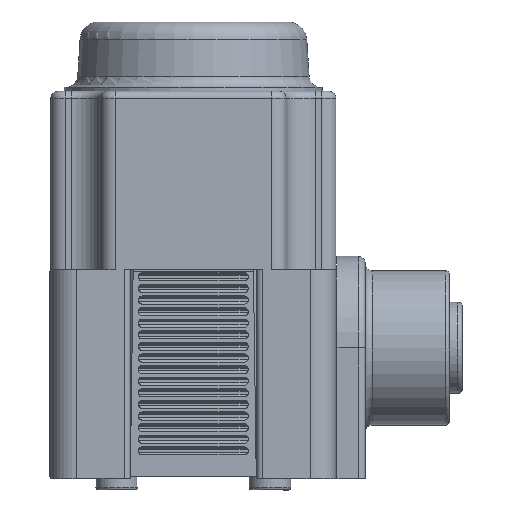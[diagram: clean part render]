
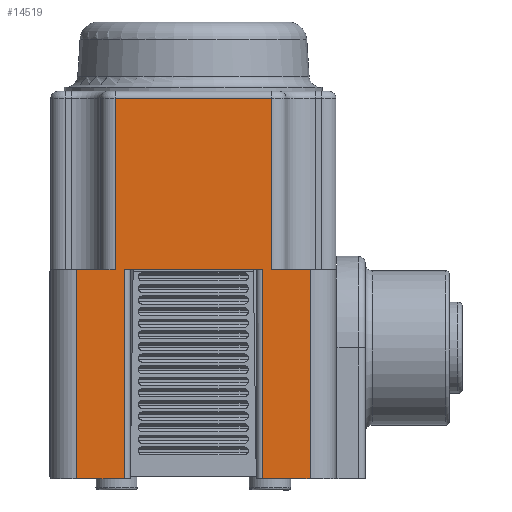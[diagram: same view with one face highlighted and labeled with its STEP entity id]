
A CAD part, left-side view. The second image highlights one B-rep face of the part: STEP entity #14519.
In plain terms, the highlighted planar face has unit normal (-1, 0, 0).
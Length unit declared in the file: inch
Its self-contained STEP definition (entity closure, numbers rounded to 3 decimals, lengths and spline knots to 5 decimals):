
#856=PLANE('',#16071);
#1621=FACE_OUTER_BOUND('',#2504,.T.);
#2504=EDGE_LOOP('',(#12526,#12527,#12528,#12529,#12530,#12531,#12532,#12533,
#12534,#12535,#12536,#12537));
#4147=LINE('',#26096,#5120);
#4160=LINE('',#26166,#5133);
#4276=LINE('',#27741,#5249);
#4293=LINE('',#27800,#5266);
#4294=LINE('',#27804,#5267);
#4297=LINE('',#27823,#5270);
#4310=LINE('',#27899,#5283);
#4311=LINE('',#27903,#5284);
#4312=LINE('',#27904,#5285);
#4313=LINE('',#27906,#5286);
#4314=LINE('',#27908,#5287);
#4315=LINE('',#27909,#5288);
#5120=VECTOR('',#19493,0.3937);
#5133=VECTOR('',#19576,0.3937);
#5249=VECTOR('',#19886,0.3937);
#5266=VECTOR('',#19957,0.3937);
#5267=VECTOR('',#19962,0.3937);
#5270=VECTOR('',#19983,0.3937);
#5283=VECTOR('',#20084,0.3937);
#5284=VECTOR('',#20089,0.3937);
#5285=VECTOR('',#20090,0.3937);
#5286=VECTOR('',#20091,0.3937);
#5287=VECTOR('',#20092,0.3937);
#5288=VECTOR('',#20093,0.3937);
#6421=VERTEX_POINT('',#26088);
#6423=VERTEX_POINT('',#26094);
#6445=VERTEX_POINT('',#26164);
#6575=VERTEX_POINT('',#27738);
#6576=VERTEX_POINT('',#27740);
#6591=VERTEX_POINT('',#27799);
#6592=VERTEX_POINT('',#27803);
#6599=VERTEX_POINT('',#27821);
#6618=VERTEX_POINT('',#27898);
#6619=VERTEX_POINT('',#27902);
#6620=VERTEX_POINT('',#27905);
#6621=VERTEX_POINT('',#27907);
#8306=EDGE_CURVE('',#6423,#6421,#4147,.T.);
#8342=EDGE_CURVE('',#6445,#6423,#4160,.T.);
#8544=EDGE_CURVE('',#6576,#6575,#4276,.T.);
#8573=EDGE_CURVE('',#6591,#6421,#4293,.T.);
#8575=EDGE_CURVE('',#6592,#6591,#4294,.T.);
#8585=EDGE_CURVE('',#6445,#6599,#4297,.T.);
#8623=EDGE_CURVE('',#6618,#6576,#4310,.T.);
#8625=EDGE_CURVE('',#6619,#6599,#4311,.T.);
#8626=EDGE_CURVE('',#6618,#6619,#4312,.T.);
#8627=EDGE_CURVE('',#6620,#6575,#4313,.T.);
#8628=EDGE_CURVE('',#6620,#6621,#4314,.T.);
#8629=EDGE_CURVE('',#6621,#6592,#4315,.T.);
#12526=ORIENTED_EDGE('',*,*,#8306,.F.);
#12527=ORIENTED_EDGE('',*,*,#8342,.F.);
#12528=ORIENTED_EDGE('',*,*,#8585,.T.);
#12529=ORIENTED_EDGE('',*,*,#8625,.F.);
#12530=ORIENTED_EDGE('',*,*,#8626,.F.);
#12531=ORIENTED_EDGE('',*,*,#8623,.T.);
#12532=ORIENTED_EDGE('',*,*,#8544,.T.);
#12533=ORIENTED_EDGE('',*,*,#8627,.F.);
#12534=ORIENTED_EDGE('',*,*,#8628,.T.);
#12535=ORIENTED_EDGE('',*,*,#8629,.T.);
#12536=ORIENTED_EDGE('',*,*,#8575,.T.);
#12537=ORIENTED_EDGE('',*,*,#8573,.T.);
#14519=ADVANCED_FACE('',(#1621),#856,.T.);
#16071=AXIS2_PLACEMENT_3D('',#27901,#20087,#20088);
#19493=DIRECTION('',(0.,-1.,0.));
#19576=DIRECTION('',(0.,0.,1.));
#19886=DIRECTION('',(0.,-1.,0.));
#19957=DIRECTION('',(0.,0.,1.));
#19962=DIRECTION('',(0.,1.,0.));
#19983=DIRECTION('',(0.,1.,0.));
#20084=DIRECTION('',(0.,0.,1.));
#20087=DIRECTION('center_axis',(-1.,0.,0.));
#20088=DIRECTION('ref_axis',(0.,0.,1.));
#20089=DIRECTION('',(0.,0.,1.));
#20090=DIRECTION('',(0.,1.,0.));
#20091=DIRECTION('',(0.,0.,1.));
#20092=DIRECTION('',(0.,-1.,0.));
#20093=DIRECTION('',(0.,0.,1.));
#26088=CARTESIAN_POINT('',(-1.35614,-0.17469,0.6733));
#26094=CARTESIAN_POINT('',(-1.35614,0.49331,0.6733));
#26096=CARTESIAN_POINT('',(-1.35614,0.49331,0.6733));
#26164=CARTESIAN_POINT('',(-1.35614,0.49331,-0.0587));
#26166=CARTESIAN_POINT('',(-1.35614,0.49331,-0.0587));
#27738=CARTESIAN_POINT('',(-1.35614,-0.13469,-0.0587));
#27740=CARTESIAN_POINT('',(-1.35614,0.45331,-0.0587));
#27741=CARTESIAN_POINT('',(-1.35614,0.45331,-0.0587));
#27799=CARTESIAN_POINT('',(-1.35614,-0.17469,-0.0587));
#27800=CARTESIAN_POINT('',(-1.35614,-0.17469,-0.0587));
#27803=CARTESIAN_POINT('',(-1.35614,-0.33969,-0.0587));
#27804=CARTESIAN_POINT('',(-1.35614,-0.33969,-0.0587));
#27821=CARTESIAN_POINT('',(-1.35614,0.65831,-0.0587));
#27823=CARTESIAN_POINT('',(-1.35614,0.49331,-0.0587));
#27898=CARTESIAN_POINT('',(-1.35614,0.45331,-0.9527));
#27899=CARTESIAN_POINT('',(-1.35614,0.45331,-0.9527));
#27901=CARTESIAN_POINT('Origin',(-1.35614,-0.34008,-0.1397));
#27902=CARTESIAN_POINT('',(-1.35614,0.65831,-0.9527));
#27903=CARTESIAN_POINT('',(-1.35614,0.65831,-0.9527));
#27904=CARTESIAN_POINT('',(-1.35614,0.45331,-0.9527));
#27905=CARTESIAN_POINT('',(-1.35614,-0.13469,-0.9527));
#27906=CARTESIAN_POINT('',(-1.35614,-0.13469,-0.9527));
#27907=CARTESIAN_POINT('',(-1.35614,-0.33969,-0.9527));
#27908=CARTESIAN_POINT('',(-1.35614,-0.13469,-0.9527));
#27909=CARTESIAN_POINT('',(-1.35614,-0.33969,-0.9527));
